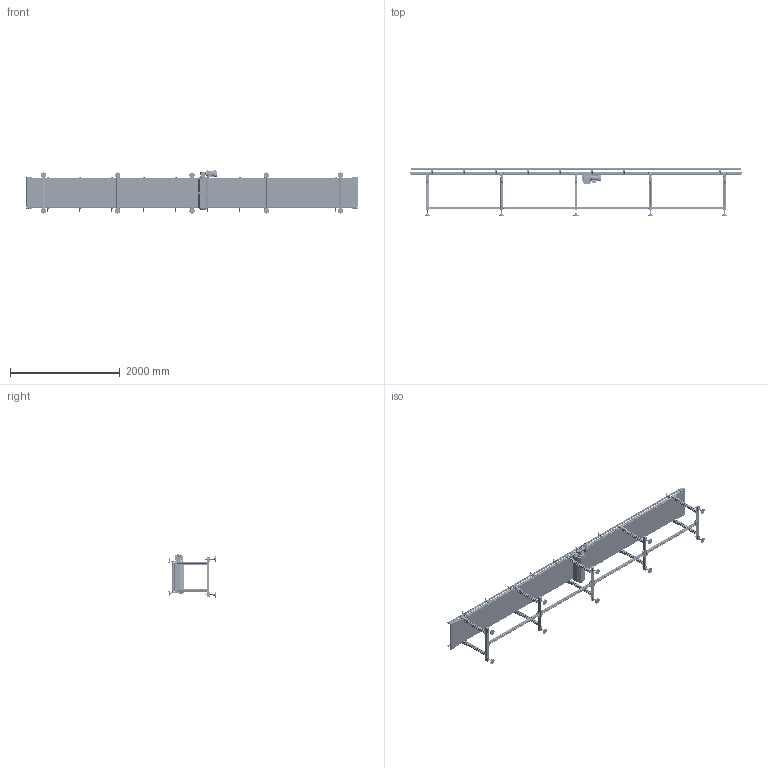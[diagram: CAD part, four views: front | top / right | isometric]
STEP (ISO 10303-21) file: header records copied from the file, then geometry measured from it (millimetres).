
FILE_DESCRIPTION (( 'STEP AP203' ), '1' );
FILE_NAME ('NASTRO_RETTILINEO_TAPPETO.step', '2026-06-04T09:43:16', ( 'Utente Windows' ), ( '' ), 'SwSTEP 2.0', 'SolidWorks 2024', '' );
FILE_SCHEMA (( 'CONFIG_CONTROL_DESIGN' ));
Length unit declared in the file: millimetre
Products named in the file (91): 084.812.003; VITI TSEI UNI 5933_M8x20 UNI 5933; 2010.000.070; VITE_DADO_M6X12; PIEDE; RONDELLE UNI 6592_8.4x17 UNI 6592; 084.301.000 VITI ALUSIC1_084.301.003; 084.810.003; 084.302.000 DADI ALUSIC 13x13-1_084.302.009; 084.802.013-2; 084.402.005; VITI TSEI UNI 5933_M6x12 UNI 5933; 084.711.005; VITI TSEI UNI 5933_M5x12 UNI 5933; 084.305.003-1; VITI TE UNI 5739_M8x12 UNI 5739; 084.302.000 DADI ALUSIC 13x13_084.302.015; 084.802.010; BLOCCO_TRAINO_50-95_CENTRALE_44; 30UNI7435; 084.802.017_084.802.017; 084.802.020; 2010.000.068; VITI TE UNI 5739_M6x50 UNI 5739; 084.711.006_PER CAVA 8 PERNO ALTO 1; VITE_RONDELLA_M8X20; BLOCCO_RINVIO_50_STANDARD; 084.712.002; RULLO_REGGITAPPETO; 084.302.017; TRAVERSA_50-95_CENTRALE_Default<A macchina>; TELAIO_50_STANDARD_Default<A macchina>; NASTRO_RETTILINEO_TAPPETO; VITI TE UNI 5739_M6x12 UNI 5739; TRAVERSA_50_Default<A macchina>; RONDELLE UNI 6592_6.4x12.5 UNI 6592; 084.302.000 DADI ALUSIC 13x13-1_084.302.004; VITI TSEI UNI 5933_M4x10 UNI 5933; RULLO_TENSIONAMENTO_50-95_CENTRALE; ANGOLARE_43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
Assembly tree (322 placements, depth 4):
  NASTRO_RETTILINEO_TAPPETO
    TAPPETO_CENTRALE
    TELAIO_50_STANDARD_Default<A macchina>
    LAMIERA_STANDARD  x3
    RULLO_50_Default<A macchina>  x2
    BLOCCO_PERNO_50_RINVIO  x4
      084.811.004
      084.810.001
    BLOCCO_RINVIO_50_STANDARD  x4
      084.807.002_084.807.002
      084.802.017_084.802.017
      084.802.008
      084.301.000 VITI ALUSIC_084.301.003
      084.302.000 DADI ALUSIC 13x13_084.302.004
      VITI TSEI UNI 5933_M4x10 UNI 5933
      084.802.071
    RULLO_95_Default<A macchina>
    BLOCCO_TRAINO_50-95_CENTRALE_44
      084.802.010
      084.802.021
      084.802.004-1  x2
      084.802.003
      VITI TSEI UNI 5933_M8x20 UNI 5933  x4
      084.302.017
      VITI TE UNI 5739_M6x50 UNI 5739  x2
      DADI ESAGONALI NORMALI UNI 5588_M6 UNI 5588  x2
      VITI TE UNI 5739_M6x16 UNI 5739  x2
      RONDELLE UNI 6592_6.4x12.5 UNI 6592  x2
      VITI TSEI UNI 5933_M6x12 UNI 5933  x4
      VITI TSEI UNI 5933_M8x16 UNI 5933  x3
      VITI TE UNI 5739_M8x20 UNI 5739  x4
      084.802.070
    BLOCCO_TRAINO_50-95_CENTRALE
      084.802.004-1  x2
      084.802.020
      084.802.003
      VITI TSEI UNI 5933_M8x20 UNI 5933  x4
      VITI TSEI UNI 5933_M6x12 UNI 5933  x6
      RONDELLE UNI 6592_8.4x17 UNI 6592  x2
      VITI TE UNI 5739_M8x12 UNI 5739  x2
      VITI TE UNI 5739_M6x16 UNI 5739  x2
      084.302.017
      RONDELLE UNI 6592_6.4x12.5 UNI 6592  x2
      VITI TE UNI 5739_M6x50 UNI 5739  x2
      DADI ESAGONALI NORMALI UNI 5588_M6 UNI 5588  x2
      084.802.064
    BLOCCO_PERNO_50_CENTRALE_44
      084.814.002-1
      084.810.003
      RONDELLE FASCIA LARGA UNI 6593_6.4x24 UNI 6593
      VITI TE UNI 5739_M6x12 UNI 5739
      CHIAVETTE_A 6x6x60 UNI 6604-69
      CHIAVETTE_A 8x7x20 UNI 6604-69
      30UNI7435
    BLOCCO_PERNO_95_RINVIO
      084.812.003
      084.810.003
      30UNI7435
    CARTER_50-95_CENTRALE
    RULLO_TENSIONAMENTO_50-95_CENTRALE  x2
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Bounding box: 6054 x 872.1 x 787.76 mm (x, y, z)
Volume: 52063665.9 mm3; surface area: 44395040.1 mm2
Topology: 811 solids, 824 shells, 40538 faces, 104560 edges, 65934 vertices
Faces by surface type: plane 15696, cylinder 13552, bspline 4634, cone 3411, torus 2742, sphere 503
Entity records: 367720 total; most frequent: CARTESIAN_POINT 128047, ORIENTED_EDGE 49584, DIRECTION 43844, EDGE_CURVE 24792, VERTEX_POINT 15992, AXIS2_PLACEMENT_3D 15403, LINE 13038, VECTOR 13038
